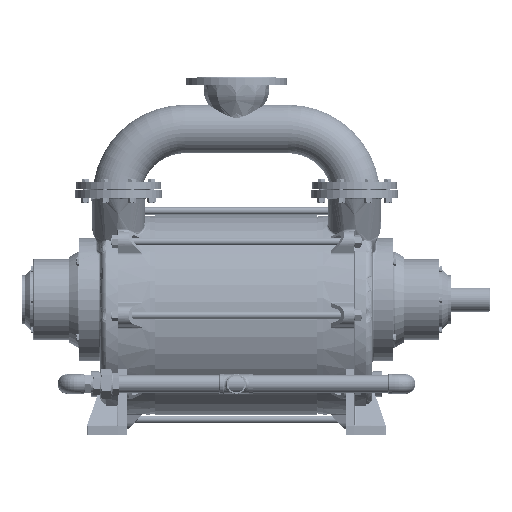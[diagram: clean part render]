
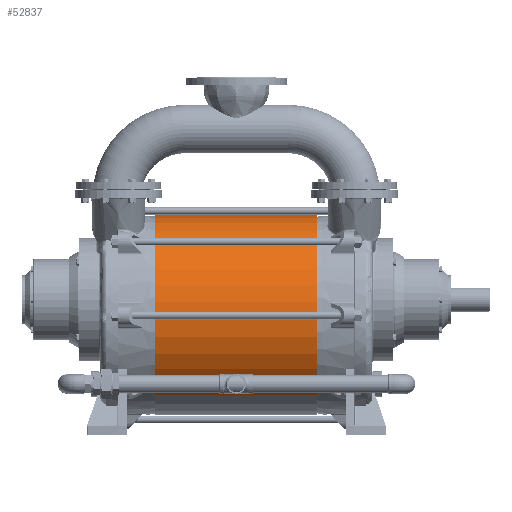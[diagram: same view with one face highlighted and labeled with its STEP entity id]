
A CAD part, front view. The second image highlights one B-rep face of the part: STEP entity #52837.
In plain terms, the highlighted cylindrical face has radius 334 mm (diameter 668 mm), a partial arc.
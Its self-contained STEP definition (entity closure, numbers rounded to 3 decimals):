
#1280 = VERTEX_POINT ( 'NONE', #49976 ) ;
#2179 = CIRCLE ( 'NONE', #175571, 334. ) ;
#2909 = DIRECTION ( 'NONE',  ( 1., 0., 0. ) ) ;
#5733 = CARTESIAN_POINT ( 'NONE',  ( 770.4, 300., 400. ) ) ;
#7793 = AXIS2_PLACEMENT_3D ( 'NONE', #152623, #73242, #11582 ) ;
#11582 = DIRECTION ( 'NONE',  ( 0., 0.608, 0.794 ) ) ;
#14928 = DIRECTION ( 'NONE',  ( -1., 0., 0. ) ) ;
#18199 = VECTOR ( 'NONE', #176828, 1000. ) ;
#22198 = EDGE_CURVE ( 'NONE', #1280, #143498, #79698, .T. ) ;
#24433 = CYLINDRICAL_SURFACE ( 'NONE', #135681, 334. ) ;
#26425 = ORIENTED_EDGE ( 'NONE', *, *, #164758, .T. ) ;
#28500 = LINE ( 'NONE', #92222, #195248 ) ;
#32864 = CARTESIAN_POINT ( 'NONE',  ( 229., 502.961, 665.26 ) ) ;
#39784 = ORIENTED_EDGE ( 'NONE', *, *, #22198, .T. ) ;
#43559 = EDGE_CURVE ( 'NONE', #1280, #194461, #2179, .T. ) ;
#49976 = CARTESIAN_POINT ( 'NONE',  ( 770.4, 502.961, 665.26 ) ) ;
#50157 = ORIENTED_EDGE ( 'NONE', *, *, #124578, .F. ) ;
#52837 = ADVANCED_FACE ( 'NONE', ( #87127 ), #24433, .T. ) ;
#66563 = DIRECTION ( 'NONE',  ( 0., 0.608, 0.794 ) ) ;
#69392 = DIRECTION ( 'NONE',  ( 0., -0.608, -0.794 ) ) ;
#73242 = DIRECTION ( 'NONE',  ( 1., 0., 0. ) ) ;
#79698 = LINE ( 'NONE', #192466, #18199 ) ;
#87127 = FACE_OUTER_BOUND ( 'NONE', #104637, .T. ) ;
#92222 = CARTESIAN_POINT ( 'NONE',  ( 770.4, 97.039, 134.74 ) ) ;
#97833 = CIRCLE ( 'NONE', #7793, 334. ) ;
#104637 = EDGE_LOOP ( 'NONE', ( #153568, #39784, #26425, #50157 ) ) ;
#108051 = CARTESIAN_POINT ( 'NONE',  ( 229., 97.039, 134.74 ) ) ;
#124578 = EDGE_CURVE ( 'NONE', #194461, #168701, #28500, .T. ) ;
#135681 = AXIS2_PLACEMENT_3D ( 'NONE', #5733, #166538, #69392 ) ;
#143498 = VERTEX_POINT ( 'NONE', #32864 ) ;
#145970 = CARTESIAN_POINT ( 'NONE',  ( 770.4, 300., 400. ) ) ;
#152623 = CARTESIAN_POINT ( 'NONE',  ( 229., 300., 400. ) ) ;
#153568 = ORIENTED_EDGE ( 'NONE', *, *, #43559, .F. ) ;
#161542 = CARTESIAN_POINT ( 'NONE',  ( 770.4, 97.039, 134.74 ) ) ;
#164758 = EDGE_CURVE ( 'NONE', #143498, #168701, #97833, .T. ) ;
#166538 = DIRECTION ( 'NONE',  ( -1., 0., 0. ) ) ;
#168701 = VERTEX_POINT ( 'NONE', #108051 ) ;
#175571 = AXIS2_PLACEMENT_3D ( 'NONE', #145970, #2909, #66563 ) ;
#176828 = DIRECTION ( 'NONE',  ( -1., 0., 0. ) ) ;
#192466 = CARTESIAN_POINT ( 'NONE',  ( 770.4, 502.961, 665.26 ) ) ;
#194461 = VERTEX_POINT ( 'NONE', #161542 ) ;
#195248 = VECTOR ( 'NONE', #14928, 1000. ) ;
